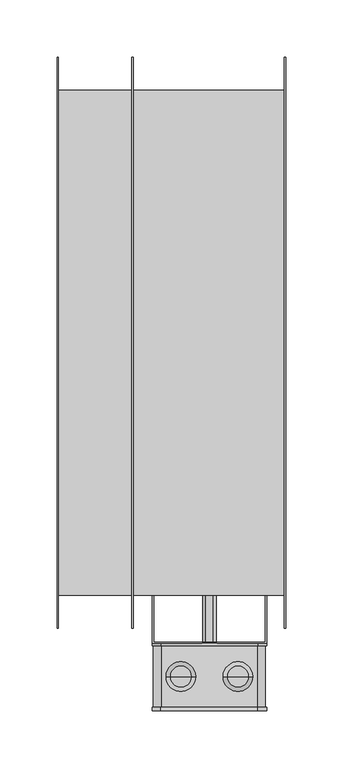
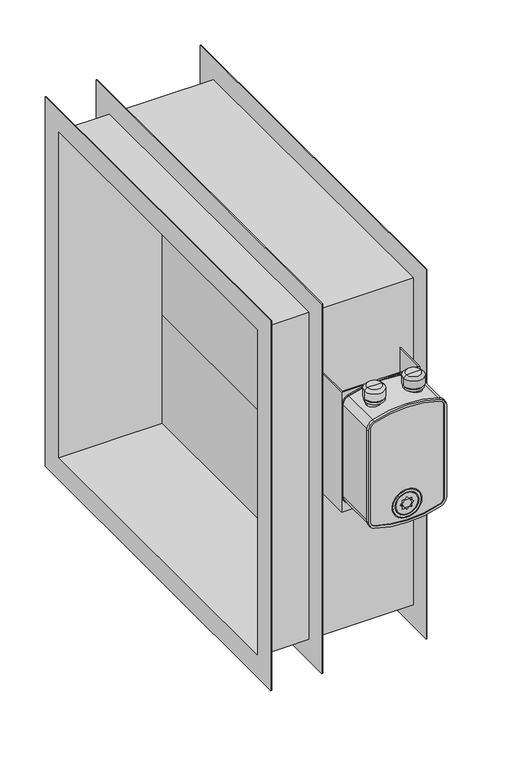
"""IFC4 building model written with IfcOpenShell, lengths in millimetres: damper geometry, СВ_КлапанПротивопожарныйЛифтовой_КДМ-2М-3-ЛС_НЗ_КанальныйПрямоугольный_СВОК : КДМ-2М_Привод FS."""

from ifc_helpers import new_model, si_unit, point, frame, frame_2d, origin, place, context, project, spatial, polyline, circle_curve, trimmed, segment, composite_curve, outline, extrude, faceted_brep, source, transform, mapped, element, save
from ifc_brep_helpers import plane_surface, cylinder_surface, revolved_surface, advanced_brep


def damper_2479240d(model_context):
    return source(origin(), model_context, "Body", "SolidModel", [
        extrude(outline(polyline([(33.9, -220.0), (32.7, -220.0), (32.7, 220.0), (33.9, 220.0), (33.9, -220.0)])), frame((0.0, 0.0, 73.3333333), z_axis=(0.0, 0.0, 1.0), x_axis=(1.0, 0.0, 0.0)), (0.0, 0.0, 1.0), 146.6666667),
        extrude(outline(polyline([(33.9, -220.0), (32.7, -220.0), (32.7, 220.0), (33.9, 220.0), (33.9, -220.0)])), frame((0.0, 0.0, -73.3333333), z_axis=(0.0, 0.0, 1.0), x_axis=(1.0, 0.0, 0.0)), (0.0, 0.0, 1.0), 146.6666667),
        extrude(outline(polyline([(33.9, -220.0), (32.7, -220.0), (32.7, 220.0), (33.9, 220.0), (33.9, -220.0)])), frame((0.0, 0.0, -220.0), z_axis=(0.0, 0.0, 1.0), x_axis=(1.0, 0.0, 0.0)), (0.0, 0.0, 1.0), 146.6666667),
        extrude(outline(polyline([(-15.5298911, -221.2), (-15.5298911, -262.0), (82.1, -262.0), (82.1, -221.2), (83.3, -221.2), (83.3, -263.2), (-16.7298911, -263.2), (-16.7298911, -221.2), (-15.5298911, -221.2)])), frame((0.0, 0.0, -30.0), z_axis=(0.0, 0.0, 1.0), x_axis=(1.0, 0.0, 0.0)), (0.0, 0.0, 1.0), 162.5),
        extrude(outline(composite_curve([segment(polyline([(116.1260091, -16.7298911), (-8.1260091, -16.7298911)]), True, "CONTINUOUS"), segment(trimmed(circle_curve(frame_2d((-8.1260091, -5.7)), 11.0298911), [point((-8.1260091, -16.7298911))], [point((-18.5819866, -9.2115572))], False, "CARTESIAN"), True, "CONTINUOUS"), segment(trimmed(circle_curve(frame_2d((108.0, 33.3)), 133.5298911), [point((-18.5819866, -9.2115572))], [point((-18.5819866, 75.8115572))], False, "CARTESIAN"), True, "CONTINUOUS"), segment(trimmed(circle_curve(frame_2d((-8.1260091, 72.3)), 11.0298911), [point((-18.5819866, 75.8115572))], [point((-8.1260091, 83.3298911))], False, "CARTESIAN"), True, "CONTINUOUS"), segment(polyline([(-8.1260091, 83.3298911), (116.1260091, 83.3298911)]), True, "CONTINUOUS"), segment(trimmed(circle_curve(frame_2d((116.1260091, 72.3)), 11.0298911), [point((116.1260091, 83.3298911))], [point((126.5819866, 75.8115572))], False, "CARTESIAN"), True, "CONTINUOUS"), segment(trimmed(circle_curve(frame_2d((0.0, 33.3)), 133.5298911), [point((126.5819866, 75.8115572))], [point((126.5819866, -9.2115572))], False, "CARTESIAN"), True, "CONTINUOUS"), segment(trimmed(circle_curve(frame_2d((116.1260091, -5.7)), 11.0298911), [point((126.5819866, -9.2115572))], [point((116.1260091, -16.7298911))], False, "CARTESIAN"), True, "CONTINUOUS")], self_intersect=False), holes=[composite_curve([segment(trimmed(circle_curve(frame_2d((108.0, 33.3)), 132.5), [point((-17.6056834, 75.4836735))], [point((-17.6056834, -8.8836735))], True, "CARTESIAN"), True, "CONTINUOUS"), segment(trimmed(circle_curve(frame_2d((-8.1260091, -5.7)), 10.0), [point((-17.6056834, -8.8836735))], [point((-8.1260091, -15.7))], True, "CARTESIAN"), True, "CONTINUOUS"), segment(polyline([(-8.1260091, -15.7), (116.1260091, -15.7)]), True, "CONTINUOUS"), segment(trimmed(circle_curve(frame_2d((116.1260091, -5.7)), 10.0), [point((116.1260091, -15.7))], [point((125.6056834, -8.8836735))], True, "CARTESIAN"), True, "CONTINUOUS"), segment(trimmed(circle_curve(frame_2d((0.0, 33.3)), 132.5), [point((125.6056834, -8.8836735))], [point((125.6056834, 75.4836735))], True, "CARTESIAN"), True, "CONTINUOUS"), segment(trimmed(circle_curve(frame_2d((116.1260091, 72.3)), 10.0), [point((125.6056834, 75.4836735))], [point((116.1260091, 82.3))], True, "CARTESIAN"), True, "CONTINUOUS"), segment(polyline([(116.1260091, 82.3), (-8.1260091, 82.3)]), True, "CONTINUOUS"), segment(trimmed(circle_curve(frame_2d((-8.1260091, 72.3)), 10.0), [point((-8.1260091, 82.3))], [point((-17.6056834, 75.4836735))], True, "CARTESIAN"), True, "CONTINUOUS")], self_intersect=False)]), frame((0.0, -265.2, 0.0), z_axis=(0.0, 1.0, 0.0), x_axis=(0.0, 0.0, 1.0)), (0.0, 0.0, 1.0), 2.0),
        advanced_brep(
        [(-8.8836735, -319.2, -17.6056834), (-15.7, -319.2, -8.1260091), (-15.7, -321.2, -8.1260091), (-8.8836735, -321.2, -17.6056834), (-9.2115572, -322.2, -18.5819866), (-16.7298911, -322.2, -8.1260091), (-16.7298911, -319.2, -8.1260091), (-9.2115572, -319.2, -18.5819866), (-8.2469388, -321.2, -15.7097485), (-13.7, -321.2, -8.1260091), (-13.7, -322.2, -8.1260091), (-8.2469388, -322.2, -15.7097485), (75.4836735, -319.2, -17.6056834), (75.4836735, -321.2, -17.6056834), (75.8115572, -322.2, -18.5819866), (75.8115572, -319.2, -18.5819866), (74.8469388, -321.2, -15.7097485), (74.8469388, -322.2, -15.7097485), (82.3, -319.2, -8.1260091), (82.3, -321.2, -8.1260091), (83.3298911, -322.2, -8.1260091), (83.3298911, -319.2, -8.1260091), (80.3, -321.2, -8.1260091), (80.3, -322.2, -8.1260091), (82.3, -321.2, 116.1260091), (82.3, -319.2, 116.1260091), (83.3298911, -319.2, 116.1260091), (83.3298911, -322.2, 116.1260091), (80.3, -322.2, 116.1260091), (80.3, -321.2, 116.1260091), (75.4836735, -319.2, 125.6056834), (75.4836735, -321.2, 125.6056834), (75.8115572, -322.2, 126.5819866), (75.8115572, -319.2, 126.5819866), (74.8469388, -321.2, 123.7097485), (74.8469388, -322.2, 123.7097485), (-8.8836735, -319.2, 125.6056834), (-8.8836735, -321.2, 125.6056834), (-9.2115572, -322.2, 126.5819866), (-9.2115572, -319.2, 126.5819866), (-8.2469388, -321.2, 123.7097485), (-8.2469388, -322.2, 123.7097485), (-15.7, -319.2, 116.1260091), (-15.7, -321.2, 116.1260091), (-16.7298911, -322.2, 116.1260091), (-16.7298911, -319.2, 116.1260091), (-13.7, -321.2, 116.1260091), (-13.7, -322.2, 116.1260091)],
        [
            (0, 1, circle_curve(frame((-5.7, -319.2, -8.1260091), z_axis=(0.0, 1.0, 0.0), x_axis=(-1.0, 0.0, 0.0)), 10.0)),
            (1, 2),
            (2, 3, circle_curve(frame((-5.7, -321.2, -8.1260091), z_axis=(0.0, -1.0, 0.0), x_axis=(-1.0, 0.0, 0.0)), 10.0)),
            (3, 0),
            (4, 5, circle_curve(frame((-5.7, -322.2, -8.1260091), z_axis=(0.0, 1.0, 0.0), x_axis=(-1.0, 0.0, 0.0)), 11.0298911)),
            (5, 6),
            (6, 7, circle_curve(frame((-5.7, -319.2, -8.1260091), z_axis=(0.0, -1.0, 0.0), x_axis=(-1.0, 0.0, 0.0)), 11.0298911)),
            (7, 4),
            (8, 9, circle_curve(frame((-5.7, -321.2, -8.1260091), z_axis=(0.0, 1.0, 0.0), x_axis=(-1.0, 0.0, 0.0)), 8.0)),
            (9, 10),
            (10, 11, circle_curve(frame((-5.7, -322.2, -8.1260091), z_axis=(0.0, -1.0, 0.0), x_axis=(-1.0, 0.0, 0.0)), 8.0)),
            (11, 8),
            (12, 0, circle_curve(frame((33.3, -319.2, 108.0), z_axis=(0.0, 1.0, 0.0), x_axis=(-0.31836734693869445, 0.0, -0.9479674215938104)), 132.5)),
            (3, 13, circle_curve(frame((33.3, -321.2, 108.0), z_axis=(0.0, -1.0, 0.0), x_axis=(-0.31836734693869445, 0.0, -0.9479674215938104)), 132.5)),
            (13, 12),
            (14, 4, circle_curve(frame((33.3, -322.2, 108.0), z_axis=(0.0, 1.0, 0.0), x_axis=(-0.31836734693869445, 0.0, -0.9479674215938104)), 133.5298911)),
            (7, 15, circle_curve(frame((33.3, -319.2, 108.0), z_axis=(0.0, -1.0, 0.0), x_axis=(-0.31836734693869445, 0.0, -0.9479674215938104)), 133.5298911)),
            (15, 14),
            (16, 8, circle_curve(frame((33.3, -321.2, 108.0), z_axis=(0.0, 1.0, 0.0), x_axis=(-0.31836734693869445, 0.0, -0.9479674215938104)), 130.5)),
            (11, 17, circle_curve(frame((33.3, -322.2, 108.0), z_axis=(0.0, -1.0, 0.0), x_axis=(-0.31836734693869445, 0.0, -0.9479674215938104)), 130.5)),
            (17, 16),
            (18, 12, circle_curve(frame((72.3, -319.2, -8.1260091), z_axis=(0.0, 1.0, 0.0), x_axis=(0.3183673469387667, 0.0, -0.947967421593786)), 10.0)),
            (13, 19, circle_curve(frame((72.3, -321.2, -8.1260091), z_axis=(0.0, -1.0, 0.0), x_axis=(0.3183673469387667, 0.0, -0.947967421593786)), 10.0)),
            (19, 18),
            (20, 14, circle_curve(frame((72.3, -322.2, -8.1260091), z_axis=(0.0, 1.0, 0.0), x_axis=(0.3183673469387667, 0.0, -0.947967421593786)), 11.0298911)),
            (15, 21, circle_curve(frame((72.3, -319.2, -8.1260091), z_axis=(0.0, -1.0, 0.0), x_axis=(0.3183673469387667, 0.0, -0.947967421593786)), 11.0298911)),
            (21, 20),
            (22, 16, circle_curve(frame((72.3, -321.2, -8.1260091), z_axis=(0.0, 1.0, 0.0), x_axis=(0.3183673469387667, 0.0, -0.947967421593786)), 8.0)),
            (17, 23, circle_curve(frame((72.3, -322.2, -8.1260091), z_axis=(0.0, -1.0, 0.0), x_axis=(0.3183673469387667, 0.0, -0.947967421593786)), 8.0)),
            (23, 22),
            (19, 24),
            (24, 25),
            (25, 18),
            (21, 26),
            (26, 27),
            (27, 20),
            (23, 28),
            (28, 29),
            (29, 22),
            (30, 25, circle_curve(frame((72.3, -319.2, 116.1260091), z_axis=(0.0, 1.0, 0.0), x_axis=(1.0, 0.0, 0.0)), 10.0)),
            (24, 31, circle_curve(frame((72.3, -321.2, 116.1260091), z_axis=(0.0, -1.0, 0.0), x_axis=(1.0, 0.0, 0.0)), 10.0)),
            (31, 30),
            (32, 27, circle_curve(frame((72.3, -322.2, 116.1260091), z_axis=(0.0, 1.0, 0.0), x_axis=(1.0, 0.0, 0.0)), 11.0298911)),
            (26, 33, circle_curve(frame((72.3, -319.2, 116.1260091), z_axis=(0.0, -1.0, 0.0), x_axis=(1.0, 0.0, 0.0)), 11.0298911)),
            (33, 32),
            (34, 29, circle_curve(frame((72.3, -321.2, 116.1260091), z_axis=(0.0, 1.0, 0.0), x_axis=(1.0, 0.0, 0.0)), 8.0)),
            (28, 35, circle_curve(frame((72.3, -322.2, 116.1260091), z_axis=(0.0, -1.0, 0.0), x_axis=(1.0, 0.0, 0.0)), 8.0)),
            (35, 34),
            (36, 30, circle_curve(frame((33.3, -319.2, 0.0), z_axis=(0.0, 1.0, 0.0), x_axis=(0.3183673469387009, 0.0, 0.9479674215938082)), 132.5)),
            (31, 37, circle_curve(frame((33.3, -321.2, 0.0), z_axis=(0.0, -1.0, 0.0), x_axis=(0.3183673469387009, 0.0, 0.9479674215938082)), 132.5)),
            (37, 36),
            (38, 32, circle_curve(frame((33.3, -322.2, 0.0), z_axis=(0.0, 1.0, 0.0), x_axis=(0.3183673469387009, 0.0, 0.9479674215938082)), 133.5298911)),
            (33, 39, circle_curve(frame((33.3, -319.2, 0.0), z_axis=(0.0, -1.0, 0.0), x_axis=(0.3183673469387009, 0.0, 0.9479674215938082)), 133.5298911)),
            (39, 38),
            (40, 34, circle_curve(frame((33.3, -321.2, 0.0), z_axis=(0.0, 1.0, 0.0), x_axis=(0.3183673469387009, 0.0, 0.9479674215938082)), 130.5)),
            (35, 41, circle_curve(frame((33.3, -322.2, 0.0), z_axis=(0.0, -1.0, 0.0), x_axis=(0.3183673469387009, 0.0, 0.9479674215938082)), 130.5)),
            (41, 40),
            (42, 36, circle_curve(frame((-5.7, -319.2, 116.1260091), z_axis=(0.0, 1.0, 0.0), x_axis=(-0.3183673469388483, 0.0, 0.9479674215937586)), 10.0)),
            (37, 43, circle_curve(frame((-5.7, -321.2, 116.1260091), z_axis=(0.0, -1.0, 0.0), x_axis=(-0.3183673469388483, 0.0, 0.9479674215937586)), 10.0)),
            (43, 42),
            (44, 38, circle_curve(frame((-5.7, -322.2, 116.1260091), z_axis=(0.0, 1.0, 0.0), x_axis=(-0.3183673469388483, 0.0, 0.9479674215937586)), 11.0298911)),
            (39, 45, circle_curve(frame((-5.7, -319.2, 116.1260091), z_axis=(0.0, -1.0, 0.0), x_axis=(-0.3183673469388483, 0.0, 0.9479674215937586)), 11.0298911)),
            (45, 44),
            (46, 40, circle_curve(frame((-5.7, -321.2, 116.1260091), z_axis=(0.0, 1.0, 0.0), x_axis=(-0.3183673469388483, 0.0, 0.9479674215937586)), 8.0)),
            (41, 47, circle_curve(frame((-5.7, -322.2, 116.1260091), z_axis=(0.0, -1.0, 0.0), x_axis=(-0.3183673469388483, 0.0, 0.9479674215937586)), 8.0)),
            (47, 46),
            (2, 43),
            (46, 9),
            (1, 42),
            (6, 45),
            (5, 44),
            (10, 47),
        ],
        [
            revolved_surface(polyline([(-15.7, -321.2, -8.1260091), (-15.7, -319.2, -8.1260091)]), (-5.7, -321.2, -8.1260091), (0.0, -1.0, 0.0)),
            cylinder_surface(frame((-5.7, -321.2, -8.1260091), z_axis=(0.0, -1.0, 0.0), x_axis=(-1.0, 0.0, 0.0)), 11.0298911),
            revolved_surface(polyline([(-13.7, -322.2, -8.1260091), (-13.7, -321.2, -8.1260091)]), (-5.7, -321.2, -8.1260091), (0.0, -1.0, 0.0)),
            revolved_surface(polyline([(-8.883673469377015, -321.2, -17.605683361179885), (-8.883673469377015, -319.2, -17.605683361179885)]), (33.3, -321.2, 108.0), (0.0, -1.0, 0.0)),
            cylinder_surface(frame((33.3, -321.2, 108.0), z_axis=(0.0, -1.0, 0.0), x_axis=(-0.31836734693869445, 0.0, -0.9479674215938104)), 133.5298911),
            revolved_surface(polyline([(-8.246938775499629, -322.2, -15.709748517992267), (-8.246938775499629, -321.2, -15.709748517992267)]), (33.3, -321.2, 108.0), (0.0, -1.0, 0.0)),
            revolved_surface(polyline([(75.48367346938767, -321.2, -17.60568331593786), (75.48367346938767, -319.2, -17.60568331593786)]), (72.3, -321.2, -8.1260091), (0.0, -1.0, 0.0)),
            cylinder_surface(frame((72.3, -321.2, -8.1260091), z_axis=(0.0, -1.0, 0.0), x_axis=(0.3183673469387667, 0.0, -0.947967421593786)), 11.0298911),
            revolved_surface(polyline([(74.84693877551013, -322.2, -15.709748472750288), (74.84693877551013, -321.2, -15.709748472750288)]), (72.3, -321.2, -8.1260091), (0.0, -1.0, 0.0)),
            plane_surface(frame((82.3, -321.2, -8.1260091), z_axis=(-1.0, 0.0, 0.0), x_axis=(0.0, 0.0, 1.0))),
            plane_surface(frame((83.3298911, -319.2, -8.1260091), z_axis=(1.0, 0.0, 0.0), x_axis=(0.0, 0.0, 1.0))),
            plane_surface(frame((80.3, -322.2, -8.1260091), z_axis=(-1.0, 0.0, 0.0), x_axis=(0.0, 0.0, 1.0))),
            revolved_surface(polyline([(82.3, -321.2, 116.1260091), (82.3, -319.2, 116.1260091)]), (72.3, -321.2, 116.1260091), (0.0, -1.0, 0.0)),
            cylinder_surface(frame((72.3, -321.2, 116.1260091), z_axis=(0.0, -1.0, 0.0), x_axis=(1.0, 0.0, 0.0)), 11.0298911),
            revolved_surface(polyline([(80.3, -322.2, 116.1260091), (80.3, -321.2, 116.1260091)]), (72.3, -321.2, 116.1260091), (0.0, -1.0, 0.0)),
            revolved_surface(polyline([(75.48367346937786, -321.2, 125.60568336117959), (75.48367346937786, -319.2, 125.60568336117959)]), (33.3, -321.2, 0.0), (0.0, -1.0, 0.0)),
            cylinder_surface(frame((33.3, -321.2, 0.0), z_axis=(0.0, -1.0, 0.0), x_axis=(0.3183673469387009, 0.0, 0.9479674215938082)), 133.5298911),
            revolved_surface(polyline([(74.84693877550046, -322.2, 123.70974851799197), (74.84693877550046, -321.2, 123.70974851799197)]), (33.3, -321.2, 0.0), (0.0, -1.0, 0.0)),
            revolved_surface(polyline([(-8.883673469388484, -321.2, 125.6056833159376), (-8.883673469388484, -319.2, 125.6056833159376)]), (-5.7, -321.2, 116.1260091), (0.0, -1.0, 0.0)),
            cylinder_surface(frame((-5.7, -321.2, 116.1260091), z_axis=(0.0, -1.0, 0.0), x_axis=(-0.3183673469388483, 0.0, 0.9479674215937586)), 11.0298911),
            revolved_surface(polyline([(-8.246938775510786, -322.2, 123.70974847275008), (-8.246938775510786, -321.2, 123.70974847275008)]), (-5.7, -321.2, 116.1260091), (0.0, -1.0, 0.0)),
            plane_surface(frame((-13.7, -321.2, 116.1260091), z_axis=(0.0, 1.0, 0.0), x_axis=(0.0, 0.0, -1.0))),
            plane_surface(frame((-15.7, -321.2, 116.1260091), z_axis=(1.0, 0.0, 0.0), x_axis=(0.0, 0.0, -1.0))),
            plane_surface(frame((-15.7, -319.2, 116.1260091), z_axis=(0.0, 1.0, 0.0), x_axis=(0.0, 0.0, -1.0))),
            plane_surface(frame((-16.7298911, -319.2, 116.1260091), z_axis=(-1.0, 0.0, 0.0), x_axis=(0.0, 0.0, -1.0))),
            plane_surface(frame((-16.7298911, -322.2, 116.1260091), z_axis=(0.0, -1.0, 0.0), x_axis=(0.0, 0.0, -1.0))),
            plane_surface(frame((-13.7, -322.2, 116.1260091), z_axis=(1.0, 0.0, 0.0), x_axis=(0.0, 0.0, -1.0))),
        ],
        [
            (0, [[1, 2, 3, 4]]),
            (1, [[5, 6, 7, 8]]),
            (2, [[9, 10, 11, 12]]),
            (3, [[13, -4, 14, 15]]),
            (4, [[16, -8, 17, 18]]),
            (5, [[19, -12, 20, 21]]),
            (6, [[22, -15, 23, 24]]),
            (7, [[25, -18, 26, 27]]),
            (8, [[28, -21, 29, 30]]),
            (9, [[-24, 31, 32, 33]]),
            (10, [[-27, 34, 35, 36]]),
            (11, [[-30, 37, 38, 39]]),
            (12, [[40, -32, 41, 42]]),
            (13, [[43, -35, 44, 45]]),
            (14, [[46, -38, 47, 48]]),
            (15, [[49, -42, 50, 51]]),
            (16, [[52, -45, 53, 54]]),
            (17, [[55, -48, 56, 57]]),
            (18, [[58, -51, 59, 60]]),
            (19, [[61, -54, 62, 63]]),
            (20, [[64, -57, 65, 66]]),
            (21, [[67, -59, -50, -41, -31, -23, -14, -3], [-55, -64, 68, -9, -19, -28, -39, -46]]),
            (22, [[-60, -67, -2, 69]]),
            (23, [[70, -62, -53, -44, -34, -26, -17, -7], [-49, -58, -69, -1, -13, -22, -33, -40]]),
            (24, [[-63, -70, -6, 71]]),
            (25, [[-52, -61, -71, -5, -16, -25, -36, -43], [72, -65, -56, -47, -37, -29, -20, -11]]),
            (26, [[-66, -72, -10, -68]]),
        ],
    ),
        advanced_brep(
        [(18.3, -292.2, 132.5), (-1.7, -292.2, 132.5), (-3.6771465, -292.2, 132.5), (20.2771465, -292.2, 132.5), (-3.6771465, -292.2, 135.4915282), (20.2771465, -292.2, 135.4915282), (0.3228535, -292.2, 135.4915282), (16.2771465, -292.2, 135.4915282), (0.3228535, -292.2, 137.4754985), (16.2771465, -292.2, 137.4754985), (-4.6771465, -292.2, 137.4754985), (21.2771465, -292.2, 137.4754985), (-4.6771465, -292.2, 147.4754985), (21.2771465, -292.2, 147.4754985), (-1.1416126, -292.2, 151.0110324), (17.7416126, -292.2, 151.0110324), (8.3, -292.2, 151.0110324), (8.3, -292.2, 120.900028), (-1.7, -292.2, 120.900028), (18.3, -292.2, 120.900028)],
        [
            (0, 1, circle_curve(frame((8.3, -292.2, 132.5), z_axis=(0.0, 0.0, 1.0), x_axis=(-1.0, 0.0, 0.0)), 10.0)),
            (1, 2),
            (2, 3, circle_curve(frame((8.3, -292.2, 132.5), z_axis=(0.0, 0.0, -1.0), x_axis=(-1.0, 0.0, 0.0)), 11.9771465)),
            (3, 0),
            (1, 0, circle_curve(frame((8.3, -292.2, 132.5), z_axis=(0.0, 0.0, 1.0), x_axis=(-1.0, 0.0, 0.0)), 10.0)),
            (3, 2, circle_curve(frame((8.3, -292.2, 132.5), z_axis=(0.0, 0.0, -1.0), x_axis=(-1.0, 0.0, 0.0)), 11.9771465)),
            (2, 4),
            (4, 5, circle_curve(frame((8.3, -292.2, 135.4915282), z_axis=(0.0, 0.0, -1.0), x_axis=(-1.0, 0.0, 0.0)), 11.9771465)),
            (5, 3),
            (5, 4, circle_curve(frame((8.3, -292.2, 135.4915282), z_axis=(0.0, 0.0, -1.0), x_axis=(-1.0, 0.0, 0.0)), 11.9771465)),
            (4, 6),
            (6, 7, circle_curve(frame((8.3, -292.2, 135.4915282), z_axis=(0.0, 0.0, -1.0), x_axis=(-1.0, 0.0, 0.0)), 7.9771465)),
            (7, 5),
            (7, 6, circle_curve(frame((8.3, -292.2, 135.4915282), z_axis=(0.0, 0.0, -1.0), x_axis=(-1.0, 0.0, 0.0)), 7.9771465)),
            (6, 8),
            (8, 9, circle_curve(frame((8.3, -292.2, 137.4754985), z_axis=(0.0, 0.0, -1.0), x_axis=(-1.0, 0.0, 0.0)), 7.9771465)),
            (9, 7),
            (9, 8, circle_curve(frame((8.3, -292.2, 137.4754985), z_axis=(0.0, 0.0, -1.0), x_axis=(-1.0, 0.0, 0.0)), 7.9771465)),
            (8, 10),
            (10, 11, circle_curve(frame((8.3, -292.2, 137.4754985), z_axis=(0.0, 0.0, -1.0), x_axis=(-1.0, 0.0, 0.0)), 12.9771465)),
            (11, 9),
            (11, 10, circle_curve(frame((8.3, -292.2, 137.4754985), z_axis=(0.0, 0.0, -1.0), x_axis=(-1.0, 0.0, 0.0)), 12.9771465)),
            (10, 12),
            (12, 13, circle_curve(frame((8.3, -292.2, 147.4754985), z_axis=(0.0, 0.0, -1.0), x_axis=(-1.0, 0.0, 0.0)), 12.9771465)),
            (13, 11),
            (13, 12, circle_curve(frame((8.3, -292.2, 147.4754985), z_axis=(0.0, 0.0, -1.0), x_axis=(-1.0, 0.0, 0.0)), 12.9771465)),
            (12, 14),
            (14, 15, circle_curve(frame((8.3, -292.2, 151.0110324), z_axis=(0.0, 0.0, -1.0), x_axis=(-1.0, 0.0, 0.0)), 9.4416126)),
            (15, 13),
            (15, 14, circle_curve(frame((8.3, -292.2, 151.0110324), z_axis=(0.0, 0.0, -1.0), x_axis=(-1.0, 0.0, 0.0)), 9.4416126)),
            (14, 16),
            (16, 15),
            (17, 18),
            (18, 19, circle_curve(frame((8.3, -292.2, 120.900028), z_axis=(0.0, 0.0, -1.0), x_axis=(-1.0, 0.0, 0.0)), 10.0)),
            (19, 17),
            (19, 18, circle_curve(frame((8.3, -292.2, 120.900028), z_axis=(0.0, 0.0, -1.0), x_axis=(-1.0, 0.0, 0.0)), 10.0)),
            (18, 1),
            (0, 19),
        ],
        [
            plane_surface(frame((8.3, -292.2, 132.5), z_axis=(0.0, 0.0, -1.0), x_axis=(-1.0, 0.0, 0.0))),
            cylinder_surface(frame((8.3, -292.2, 461.314844), z_axis=(0.0, 0.0, -1.0), x_axis=(-1.0, 0.0, 0.0)), 11.9771465),
            plane_surface(frame((8.3, -292.2, 135.4915282), z_axis=(0.0, 0.0, 1.0), x_axis=(-1.0, 0.0, 0.0))),
            cylinder_surface(frame((8.3, -292.2, 461.314844), z_axis=(0.0, 0.0, -1.0), x_axis=(-1.0, 0.0, 0.0)), 7.9771465),
            plane_surface(frame((8.3, -292.2, 137.4754985), z_axis=(0.0, 0.0, -1.0), x_axis=(-1.0, 0.0, 0.0))),
            cylinder_surface(frame((8.3, -292.2, 461.314844), z_axis=(0.0, 0.0, -1.0), x_axis=(-1.0, 0.0, 0.0)), 12.9771465),
            revolved_surface(polyline([(-1.1416126, -292.2, 151.0110324), (-4.6771465, -292.2, 147.4754985)]), (8.3, -292.2, 461.314844), (0.0, 0.0, -1.0)),
            plane_surface(frame((8.3, -292.2, 151.0110324), z_axis=(0.0, 0.0, 1.0), x_axis=(-1.0, 0.0, 0.0))),
            plane_surface(frame((8.3, -292.2, 120.900028), z_axis=(0.0, 0.0, -1.0), x_axis=(-1.0, 0.0, 0.0))),
            cylinder_surface(frame((8.3, -292.2, 461.314844), z_axis=(0.0, 0.0, -1.0), x_axis=(-1.0, 0.0, 0.0)), 10.0),
        ],
        [
            (0, [[1, 2, 3, 4]]),
            (0, [[5, -4, 6, -2]]),
            (1, [[-3, 7, 8, 9]]),
            (1, [[-6, -9, 10, -7]]),
            (2, [[-8, 11, 12, 13]]),
            (2, [[-10, -13, 14, -11]]),
            (3, [[-12, 15, 16, 17]]),
            (3, [[-14, -17, 18, -15]]),
            (4, [[-16, 19, 20, 21]]),
            (4, [[-18, -21, 22, -19]]),
            (5, [[-20, 23, 24, 25]]),
            (5, [[-22, -25, 26, -23]]),
            (6, [[-24, 27, 28, 29]]),
            (6, [[-26, -29, 30, -27]]),
            (7, [[-28, 31, 32]]),
            (7, [[-30, -32, -31]]),
            (8, [[33, 34, 35]]),
            (8, [[-35, 36, -33]]),
            (9, [[-34, 37, -1, 38]]),
            (9, [[-36, -38, -5, -37]]),
        ],
    ),
        advanced_brep(
        [(46.3228535, -292.2, 132.5), (70.2771465, -292.2, 132.5), (68.3, -292.2, 132.5), (48.3, -292.2, 132.5), (46.3228535, -292.2, 135.4915282), (70.2771465, -292.2, 135.4915282), (50.3228535, -292.2, 135.4915282), (66.2771465, -292.2, 135.4915282), (50.3228535, -292.2, 137.4754985), (66.2771465, -292.2, 137.4754985), (45.3228535, -292.2, 137.4754985), (71.2771465, -292.2, 137.4754985), (45.3228535, -292.2, 147.4754985), (71.2771465, -292.2, 147.4754985), (48.8583874, -292.2, 151.0110324), (67.7416126, -292.2, 151.0110324), (58.3, -292.2, 151.0110324), (48.3, -292.2, 120.900028), (68.3, -292.2, 120.900028), (58.3, -292.2, 120.900028)],
        [
            (0, 1, circle_curve(frame((58.3, -292.2, 132.5), z_axis=(0.0, 0.0, -1.0), x_axis=(1.0, 0.0, 0.0)), 11.9771465)),
            (1, 2),
            (2, 3, circle_curve(frame((58.3, -292.2, 132.5), z_axis=(0.0, 0.0, 1.0), x_axis=(1.0, 0.0, 0.0)), 10.0)),
            (3, 0),
            (1, 0, circle_curve(frame((58.3, -292.2, 132.5), z_axis=(0.0, 0.0, -1.0), x_axis=(1.0, 0.0, 0.0)), 11.9771465)),
            (3, 2, circle_curve(frame((58.3, -292.2, 132.5), z_axis=(0.0, 0.0, 1.0), x_axis=(1.0, 0.0, 0.0)), 10.0)),
            (4, 5, circle_curve(frame((58.3, -292.2, 135.4915282), z_axis=(0.0, 0.0, -1.0), x_axis=(1.0, 0.0, 0.0)), 11.9771465)),
            (5, 1),
            (0, 4),
            (5, 4, circle_curve(frame((58.3, -292.2, 135.4915282), z_axis=(0.0, 0.0, -1.0), x_axis=(1.0, 0.0, 0.0)), 11.9771465)),
            (6, 7, circle_curve(frame((58.3, -292.2, 135.4915282), z_axis=(0.0, 0.0, -1.0), x_axis=(1.0, 0.0, 0.0)), 7.9771465)),
            (7, 5),
            (4, 6),
            (7, 6, circle_curve(frame((58.3, -292.2, 135.4915282), z_axis=(0.0, 0.0, -1.0), x_axis=(1.0, 0.0, 0.0)), 7.9771465)),
            (8, 9, circle_curve(frame((58.3, -292.2, 137.4754985), z_axis=(0.0, 0.0, -1.0), x_axis=(1.0, 0.0, 0.0)), 7.9771465)),
            (9, 7),
            (6, 8),
            (9, 8, circle_curve(frame((58.3, -292.2, 137.4754985), z_axis=(0.0, 0.0, -1.0), x_axis=(1.0, 0.0, 0.0)), 7.9771465)),
            (10, 11, circle_curve(frame((58.3, -292.2, 137.4754985), z_axis=(0.0, 0.0, -1.0), x_axis=(1.0, 0.0, 0.0)), 12.9771465)),
            (11, 9),
            (8, 10),
            (11, 10, circle_curve(frame((58.3, -292.2, 137.4754985), z_axis=(0.0, 0.0, -1.0), x_axis=(1.0, 0.0, 0.0)), 12.9771465)),
            (12, 13, circle_curve(frame((58.3, -292.2, 147.4754985), z_axis=(0.0, 0.0, -1.0), x_axis=(1.0, 0.0, 0.0)), 12.9771465)),
            (13, 11),
            (10, 12),
            (13, 12, circle_curve(frame((58.3, -292.2, 147.4754985), z_axis=(0.0, 0.0, -1.0), x_axis=(1.0, 0.0, 0.0)), 12.9771465)),
            (14, 15, circle_curve(frame((58.3, -292.2, 151.0110324), z_axis=(0.0, 0.0, -1.0), x_axis=(1.0, 0.0, 0.0)), 9.4416126)),
            (15, 13),
            (12, 14),
            (15, 14, circle_curve(frame((58.3, -292.2, 151.0110324), z_axis=(0.0, 0.0, -1.0), x_axis=(1.0, 0.0, 0.0)), 9.4416126)),
            (16, 15),
            (14, 16),
            (17, 18, circle_curve(frame((58.3, -292.2, 120.900028), z_axis=(0.0, 0.0, -1.0), x_axis=(1.0, 0.0, 0.0)), 10.0)),
            (18, 19),
            (19, 17),
            (18, 17, circle_curve(frame((58.3, -292.2, 120.900028), z_axis=(0.0, 0.0, -1.0), x_axis=(1.0, 0.0, 0.0)), 10.0)),
            (2, 18),
            (17, 3),
        ],
        [
            plane_surface(frame((58.3, -292.2, 132.5), z_axis=(0.0, 0.0, -1.0), x_axis=(1.0, 0.0, 0.0))),
            cylinder_surface(frame((58.3, -292.2, 461.314844), z_axis=(0.0, 0.0, 1.0), x_axis=(1.0, 0.0, 0.0)), 11.9771465),
            plane_surface(frame((58.3, -292.2, 135.4915282), z_axis=(0.0, 0.0, 1.0), x_axis=(1.0, 0.0, 0.0))),
            cylinder_surface(frame((58.3, -292.2, 461.314844), z_axis=(0.0, 0.0, 1.0), x_axis=(1.0, 0.0, 0.0)), 7.9771465),
            plane_surface(frame((58.3, -292.2, 137.4754985), z_axis=(0.0, 0.0, -1.0), x_axis=(1.0, 0.0, 0.0))),
            cylinder_surface(frame((58.3, -292.2, 461.314844), z_axis=(0.0, 0.0, 1.0), x_axis=(1.0, 0.0, 0.0)), 12.9771465),
            revolved_surface(polyline([(71.2771465, -292.2, 147.4754985), (67.7416126, -292.2, 151.0110324)]), (58.3, -292.2, 461.314844), (0.0, 0.0, 1.0)),
            plane_surface(frame((58.3, -292.2, 151.0110324), z_axis=(0.0, 0.0, 1.0), x_axis=(1.0, 0.0, 0.0))),
            plane_surface(frame((58.3, -292.2, 120.900028), z_axis=(0.0, 0.0, -1.0), x_axis=(1.0, 0.0, 0.0))),
            cylinder_surface(frame((58.3, -292.2, 461.314844), z_axis=(0.0, 0.0, 1.0), x_axis=(1.0, 0.0, 0.0)), 10.0),
        ],
        [
            (0, [[1, 2, 3, 4]]),
            (0, [[5, -4, 6, -2]]),
            (1, [[7, 8, -1, 9]]),
            (1, [[10, -9, -5, -8]]),
            (2, [[11, 12, -7, 13]]),
            (2, [[14, -13, -10, -12]]),
            (3, [[15, 16, -11, 17]]),
            (3, [[18, -17, -14, -16]]),
            (4, [[19, 20, -15, 21]]),
            (4, [[22, -21, -18, -20]]),
            (5, [[23, 24, -19, 25]]),
            (5, [[26, -25, -22, -24]]),
            (6, [[27, 28, -23, 29]]),
            (6, [[30, -29, -26, -28]]),
            (7, [[31, -27, 32]]),
            (7, [[-32, -30, -31]]),
            (8, [[33, 34, 35]]),
            (8, [[36, -35, -34]]),
            (9, [[-3, 37, -33, 38]]),
            (9, [[-6, -38, -36, -37]]),
        ],
    ),
        extrude(outline(polyline([(5.1832695, 36.2925621), (5.1832695, 30.3074379), (0.0, 27.3148759), (-5.1832695, 30.3074379), (-5.1832695, 36.2925621), (0.0, 39.2851241), (5.1832695, 36.2925621)])), frame((0.0, -321.2, 0.0), z_axis=(0.0, 1.0, 0.0), x_axis=(0.0, 0.0, 1.0)), (0.0, 0.0, 1.0), 100.0),
        advanced_brep(
        [(-8.8836735, -321.2, 125.6056834), (-15.7, -321.2, 116.1260091), (-15.7, -321.2, -8.1260091), (-8.8836735, -321.2, -17.6056834), (75.4836735, -321.2, -17.6056834), (82.3, -321.2, -8.1260091), (82.3, -321.2, 116.1260091), (75.4836735, -321.2, 125.6056834), (33.3, -321.2, 19.0), (33.3, -321.2, -19.0), (33.3, -321.2, 18.0), (33.3, -321.2, -18.0), (33.3, -321.2, 15.0), (33.3, -321.2, -15.0), (33.3, -321.2, 14.0), (33.3, -321.2, -14.0), (27.3045537, -321.2, -5.9954463), (27.3045537, -321.2, -2.4898351), (24.8147186, -321.2, 0.0), (27.3045537, -321.2, 2.4898351), (27.3045537, -321.2, 5.9954463), (30.8101649, -321.2, 5.9954463), (33.3, -321.2, 8.4852814), (35.7898351, -321.2, 5.9954463), (39.2954463, -321.2, 5.9954463), (39.2954463, -321.2, 2.4898351), (41.7852814, -321.2, 0.0), (39.2954463, -321.2, -2.4898351), (39.2954463, -321.2, -5.9954463), (35.7898351, -321.2, -5.9954463), (33.3, -321.2, -8.4852814), (30.8101649, -321.2, -5.9954463), (-8.8836735, -263.2, 125.6056834), (75.4836735, -263.2, 125.6056834), (82.3, -263.2, 116.1260091), (82.3, -263.2, -8.1260091), (75.4836735, -263.2, -17.6056834), (-8.8836735, -263.2, -17.6056834), (-15.7, -263.2, -8.1260091), (-15.7, -263.2, 116.1260091), (33.3, -316.2, -19.0), (33.3, -316.2, 19.0), (33.3, -316.2, -18.0), (33.3, -316.2, 18.0), (33.3, -316.2, -15.0), (33.3, -316.2, 15.0), (33.3, -316.2, -14.0), (33.3, -316.2, 14.0), (27.3045537, -316.2, -2.4898351), (27.3045537, -316.2, -5.9954463), (30.8101649, -316.2, -5.9954463), (33.3, -316.2, -8.4852814), (35.7898351, -316.2, -5.9954463), (39.2954463, -316.2, -5.9954463), (39.2954463, -316.2, -2.4898351), (41.7852814, -316.2, 0.0), (39.2954463, -316.2, 2.4898351), (39.2954463, -316.2, 5.9954463), (35.7898351, -316.2, 5.9954463), (33.3, -316.2, 8.4852814), (30.8101649, -316.2, 5.9954463), (27.3045537, -316.2, 5.9954463), (27.3045537, -316.2, 2.4898351), (24.8147186, -316.2, 0.0)],
        [
            (0, 1, circle_curve(frame((-5.7, -321.2, 116.1260091), z_axis=(0.0, -1.0, 0.0), x_axis=(0.0, 0.0, 1.0)), 10.0)),
            (1, 2),
            (2, 3, circle_curve(frame((-5.7, -321.2, -8.1260091), z_axis=(0.0, -1.0, 0.0), x_axis=(0.0, 0.0, 1.0)), 10.0)),
            (3, 4, circle_curve(frame((33.3, -321.2, 108.0), z_axis=(0.0, -1.0, 0.0), x_axis=(0.0, 0.0, 1.0)), 132.5)),
            (4, 5, circle_curve(frame((72.3, -321.2, -8.1260091), z_axis=(0.0, -1.0, 0.0), x_axis=(0.0, 0.0, 1.0)), 10.0)),
            (5, 6),
            (6, 7, circle_curve(frame((72.3, -321.2, 116.1260091), z_axis=(0.0, -1.0, 0.0), x_axis=(0.0, 0.0, 1.0)), 10.0)),
            (7, 0, circle_curve(frame((33.3, -321.2, 0.0), z_axis=(0.0, -1.0, 0.0), x_axis=(0.0, 0.0, 1.0)), 132.5)),
            (8, 9, circle_curve(frame((33.3, -321.2, 0.0), z_axis=(0.0, 1.0, 0.0), x_axis=(0.0, 0.0, 1.0)), 19.0)),
            (9, 8, circle_curve(frame((33.3, -321.2, 0.0), z_axis=(0.0, 1.0, 0.0), x_axis=(0.0, 0.0, 1.0)), 19.0)),
            (10, 11, circle_curve(frame((33.3, -321.2, 0.0), z_axis=(0.0, -1.0, 0.0), x_axis=(0.0, 0.0, 1.0)), 18.0)),
            (11, 10, circle_curve(frame((33.3, -321.2, 0.0), z_axis=(0.0, -1.0, 0.0), x_axis=(0.0, 0.0, 1.0)), 18.0)),
            (12, 13, circle_curve(frame((33.3, -321.2, 0.0), z_axis=(0.0, 1.0, 0.0), x_axis=(0.0, 0.0, 1.0)), 15.0)),
            (13, 12, circle_curve(frame((33.3, -321.2, 0.0), z_axis=(0.0, 1.0, 0.0), x_axis=(0.0, 0.0, 1.0)), 15.0)),
            (14, 15, circle_curve(frame((33.3, -321.2, 0.0), z_axis=(0.0, -1.0, 0.0), x_axis=(0.0, 0.0, 1.0)), 14.0)),
            (15, 14, circle_curve(frame((33.3, -321.2, 0.0), z_axis=(0.0, -1.0, 0.0), x_axis=(0.0, 0.0, 1.0)), 14.0)),
            (16, 17),
            (17, 18),
            (18, 19),
            (19, 20),
            (20, 21),
            (21, 22),
            (22, 23),
            (23, 24),
            (24, 25),
            (25, 26),
            (26, 27),
            (27, 28),
            (28, 29),
            (29, 30),
            (30, 31),
            (31, 16),
            (32, 33, circle_curve(frame((33.3, -263.2, 0.0), z_axis=(0.0, 1.0, 0.0), x_axis=(0.0, 0.0, 1.0)), 132.5)),
            (33, 34, circle_curve(frame((72.3, -263.2, 116.1260091), z_axis=(0.0, 1.0, 0.0), x_axis=(0.0, 0.0, 1.0)), 10.0)),
            (34, 35),
            (35, 36, circle_curve(frame((72.3, -263.2, -8.1260091), z_axis=(0.0, 1.0, 0.0), x_axis=(0.0, 0.0, 1.0)), 10.0)),
            (36, 37, circle_curve(frame((33.3, -263.2, 108.0), z_axis=(0.0, 1.0, 0.0), x_axis=(0.0, 0.0, 1.0)), 132.5)),
            (37, 38, circle_curve(frame((-5.7, -263.2, -8.1260091), z_axis=(0.0, 1.0, 0.0), x_axis=(0.0, 0.0, 1.0)), 10.0)),
            (38, 39),
            (39, 32, circle_curve(frame((-5.7, -263.2, 116.1260091), z_axis=(0.0, 1.0, 0.0), x_axis=(0.0, 0.0, 1.0)), 10.0)),
            (0, 32),
            (39, 1),
            (38, 2),
            (37, 3),
            (36, 4),
            (35, 5),
            (34, 6),
            (33, 7),
            (40, 41, circle_curve(frame((33.3, -316.2, 0.0), z_axis=(0.0, -1.0, 0.0), x_axis=(0.0, 0.0, 1.0)), 19.0)),
            (41, 40, circle_curve(frame((33.3, -316.2, 0.0), z_axis=(0.0, -1.0, 0.0), x_axis=(0.0, 0.0, 1.0)), 19.0)),
            (42, 43, circle_curve(frame((33.3, -316.2, 0.0), z_axis=(0.0, 1.0, 0.0), x_axis=(0.0, 0.0, 1.0)), 18.0)),
            (43, 42, circle_curve(frame((33.3, -316.2, 0.0), z_axis=(0.0, 1.0, 0.0), x_axis=(0.0, 0.0, 1.0)), 18.0)),
            (44, 45, circle_curve(frame((33.3, -316.2, 0.0), z_axis=(0.0, -1.0, 0.0), x_axis=(0.0, 0.0, 1.0)), 15.0)),
            (45, 44, circle_curve(frame((33.3, -316.2, 0.0), z_axis=(0.0, -1.0, 0.0), x_axis=(0.0, 0.0, 1.0)), 15.0)),
            (46, 47, circle_curve(frame((33.3, -316.2, 0.0), z_axis=(0.0, 1.0, 0.0), x_axis=(0.0, 0.0, 1.0)), 14.0)),
            (47, 46, circle_curve(frame((33.3, -316.2, 0.0), z_axis=(0.0, 1.0, 0.0), x_axis=(0.0, 0.0, 1.0)), 14.0)),
            (48, 49),
            (49, 50),
            (50, 51),
            (51, 52),
            (52, 53),
            (53, 54),
            (54, 55),
            (55, 56),
            (56, 57),
            (57, 58),
            (58, 59),
            (59, 60),
            (60, 61),
            (61, 62),
            (62, 63),
            (63, 48),
            (40, 9),
            (8, 41),
            (42, 11),
            (10, 43),
            (44, 13),
            (12, 45),
            (46, 15),
            (14, 47),
            (48, 17),
            (16, 49),
            (31, 50),
            (30, 51),
            (29, 52),
            (28, 53),
            (27, 54),
            (26, 55),
            (25, 56),
            (24, 57),
            (23, 58),
            (22, 59),
            (21, 60),
            (20, 61),
            (19, 62),
            (18, 63),
        ],
        [
            plane_surface(frame((-5.7, -321.2, 126.1260091), z_axis=(0.0, -1.0, 0.0), x_axis=(-1.0, 0.0, 0.0))),
            plane_surface(frame((-5.7, -263.2, 126.1260091), z_axis=(0.0, 1.0, 0.0), x_axis=(1.0, 0.0, 0.0))),
            cylinder_surface(frame((-5.7, -263.2, 116.1260091), z_axis=(0.0, -1.0, 0.0), x_axis=(0.0, 0.0, 1.0)), 10.0),
            plane_surface(frame((-15.7, -321.2, 116.1260091), z_axis=(-1.0, 0.0, 0.0), x_axis=(0.0, 1.0, 0.0))),
            cylinder_surface(frame((-5.7, -263.2, -8.1260091), z_axis=(0.0, -1.0, 0.0), x_axis=(0.0, 0.0, 1.0)), 10.0),
            cylinder_surface(frame((33.3, -263.2, 108.0), z_axis=(0.0, -1.0, 0.0), x_axis=(0.0, 0.0, 1.0)), 132.5),
            cylinder_surface(frame((72.3, -263.2, -8.1260091), z_axis=(0.0, -1.0, 0.0), x_axis=(0.0, 0.0, 1.0)), 10.0),
            plane_surface(frame((82.3, -321.2, -8.1260091), z_axis=(1.0, 0.0, 0.0), x_axis=(0.0, 1.0, 0.0))),
            cylinder_surface(frame((72.3, -263.2, 116.1260091), z_axis=(0.0, -1.0, 0.0), x_axis=(0.0, 0.0, 1.0)), 10.0),
            cylinder_surface(frame((33.3, -263.2, 0.0), z_axis=(0.0, -1.0, 0.0), x_axis=(0.0, 0.0, 1.0)), 132.5),
            plane_surface(frame((33.3, -316.2, 19.0), z_axis=(0.0, -1.0, 0.0), x_axis=(1.0, 0.0, 0.0))),
            revolved_surface(polyline([(33.3, -321.2, 19.0), (33.3, -316.2, 19.0)]), (33.3, -316.2, 0.0), (0.0, -1.0, 0.0)),
            cylinder_surface(frame((33.3, -221.2, 0.0), z_axis=(0.0, 1.0, 0.0), x_axis=(0.0, 0.0, 1.0)), 18.0),
            revolved_surface(polyline([(33.3, -321.2, 15.0), (33.3, -316.2, 15.0)]), (33.3, -221.2, 0.0), (0.0, -1.0, 0.0)),
            cylinder_surface(frame((33.3, -221.2, 0.0), z_axis=(0.0, 1.0, 0.0), x_axis=(0.0, 0.0, 1.0)), 14.0),
            plane_surface(frame((27.3045537, -321.2, -2.4898351), z_axis=(1.0, 0.0, 0.0), x_axis=(0.0, 1.0, 0.0))),
            plane_surface(frame((27.3045537, -321.2, -5.9954463), z_axis=(0.0, 0.0, 1.0), x_axis=(0.0, 1.0, 0.0))),
            plane_surface(frame((30.8101649, -321.2, -5.9954463), z_axis=(0.7071067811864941, 0.0, 0.7071067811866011), x_axis=(0.0, 1.0, 0.0))),
            plane_surface(frame((33.3, -321.2, -8.4852814), z_axis=(-0.7071067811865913, 0.0, 0.7071067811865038), x_axis=(0.0, 1.0, 0.0))),
            plane_surface(frame((35.7898351, -321.2, -5.9954463), z_axis=(0.0, 0.0, 1.0), x_axis=(0.0, 1.0, 0.0))),
            plane_surface(frame((39.2954463, -321.2, -5.9954463), z_axis=(-1.0, 0.0, 0.0), x_axis=(0.0, 1.0, 0.0))),
            plane_surface(frame((39.2954463, -321.2, -2.4898351), z_axis=(-0.7071067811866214, 0.0, 0.7071067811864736), x_axis=(0.0, 1.0, 0.0))),
            plane_surface(frame((41.7852814, -321.2, 0.0), z_axis=(-0.7071067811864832, 0.0, -0.7071067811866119), x_axis=(0.0, 1.0, 0.0))),
            plane_surface(frame((39.2954463, -321.2, 2.4898351), z_axis=(-1.0, 0.0, 0.0), x_axis=(0.0, 1.0, 0.0))),
            plane_surface(frame((39.2954463, -321.2, 5.9954463), z_axis=(0.0, 0.0, -1.0), x_axis=(0.0, 1.0, 0.0))),
            plane_surface(frame((35.7898351, -321.2, 5.9954463), z_axis=(-0.7071067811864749, 0.0, -0.7071067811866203), x_axis=(0.0, 1.0, 0.0))),
            plane_surface(frame((33.3, -321.2, 8.4852814), z_axis=(0.7071067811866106, 0.0, -0.7071067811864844), x_axis=(0.0, 1.0, 0.0))),
            plane_surface(frame((30.8101649, -321.2, 5.9954463), z_axis=(0.0, 0.0, -1.0), x_axis=(0.0, 1.0, 0.0))),
            plane_surface(frame((27.3045537, -321.2, 5.9954463), z_axis=(1.0, 0.0, 0.0), x_axis=(0.0, 1.0, 0.0))),
            plane_surface(frame((27.3045537, -321.2, 2.4898351), z_axis=(0.7071067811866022, 0.0, -0.7071067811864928), x_axis=(0.0, 1.0, 0.0))),
            plane_surface(frame((24.8147186, -321.2, 0.0), z_axis=(0.7071067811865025, 0.0, 0.7071067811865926), x_axis=(0.0, 1.0, 0.0))),
        ],
        [
            (0, [[1, 2, 3, 4, 5, 6, 7, 8], [9, 10]]),
            (0, [[11, 12], [13, 14]]),
            (0, [[15, 16], [17, 18, 19, 20, 21, 22, 23, 24, 25, 26, 27, 28, 29, 30, 31, 32]]),
            (1, [[33, 34, 35, 36, 37, 38, 39, 40]]),
            (2, [[-1, 41, -40, 42]]),
            (3, [[-2, -42, -39, 43]]),
            (4, [[-3, -43, -38, 44]]),
            (5, [[-4, -44, -37, 45]]),
            (6, [[-5, -45, -36, 46]]),
            (7, [[-6, -46, -35, 47]]),
            (8, [[-7, -47, -34, 48]]),
            (9, [[-8, -48, -33, -41]]),
            (10, [[49, 50], [51, 52]]),
            (10, [[53, 54], [55, 56]]),
            (10, [[57, 58, 59, 60, 61, 62, 63, 64, 65, 66, 67, 68, 69, 70, 71, 72]]),
            (11, [[-49, 73, -9, 74]]),
            (11, [[-50, -74, -10, -73]]),
            (12, [[-51, 75, -11, 76]]),
            (12, [[-52, -76, -12, -75]]),
            (13, [[-53, 77, -13, 78]]),
            (13, [[-54, -78, -14, -77]]),
            (14, [[-55, 79, -15, 80]]),
            (14, [[-56, -80, -16, -79]]),
            (15, [[-57, 81, -17, 82]]),
            (16, [[-58, -82, -32, 83]]),
            (17, [[-59, -83, -31, 84]]),
            (18, [[-60, -84, -30, 85]]),
            (19, [[-61, -85, -29, 86]]),
            (20, [[-62, -86, -28, 87]]),
            (21, [[-63, -87, -27, 88]]),
            (22, [[-64, -88, -26, 89]]),
            (23, [[-65, -89, -25, 90]]),
            (24, [[-66, -90, -24, 91]]),
            (25, [[-67, -91, -23, 92]]),
            (26, [[-68, -92, -22, 93]]),
            (27, [[-69, -93, -21, 94]]),
            (28, [[-70, -94, -20, 95]]),
            (29, [[-71, -95, -19, 96]]),
            (30, [[-72, -96, -18, -81]]),
        ],
    ),
        faceted_brep([(-100.0, -250.0, 250.0), (-100.0, 250.0, 250.0), (-100.0, 250.0, -250.0), (-100.0, -250.0, -250.0), (-100.0, -220.0, 220.0), (-100.0, -220.0, -220.0), (-100.0, 220.0, -220.0), (-100.0, 220.0, 220.0), (-98.8, -250.0, 250.0), (-98.8, -250.0, -250.0), (-98.8, 250.0, -250.0), (-98.8, 250.0, 250.0), (-98.8, -221.2, 221.2), (-98.8, 221.2, 221.2), (-98.8, 221.2, -221.2), (-98.8, -221.2, -221.2), (100.0, -250.0, 250.0), (100.0, -250.0, -250.0), (100.0, 250.0, -250.0), (100.0, 250.0, 250.0), (100.0, -220.0, 220.0), (100.0, 220.0, 220.0), (100.0, 220.0, -220.0), (100.0, -220.0, -220.0), (-34.5333333, -221.2, 221.2), (-34.5333333, 221.2, 221.2), (98.8, -221.2, 221.2), (98.8, 221.2, 221.2), (-33.3333333, 221.2, 221.2), (-33.3333333, -221.2, 221.2), (-34.5333333, -221.2, -221.2), (98.8, -221.2, -221.2), (-33.3333333, -221.2, -221.2), (-34.5333333, 221.2, -221.2), (98.8, 221.2, -221.2), (-33.3333333, 221.2, -221.2), (-34.5333333, 220.0, 220.0), (-33.3333333, 220.0, 220.0), (98.8, 220.0, 220.0), (98.8, -220.0, 220.0), (-33.3333333, -220.0, 220.0), (-34.5333333, -220.0, 220.0), (-34.5333333, 220.0, -220.0), (-33.3333333, 220.0, -220.0), (98.8, 220.0, -220.0), (-34.5333333, -220.0, -220.0), (-33.3333333, -220.0, -220.0), (98.8, -220.0, -220.0), (98.8, -250.0, 250.0), (98.8, 250.0, 250.0), (98.8, 250.0, -250.0), (98.8, -250.0, -250.0), (-34.5333333, -250.0, 250.0), (-34.5333333, 250.0, 250.0), (-34.5333333, 250.0, -250.0), (-34.5333333, -250.0, -250.0), (-33.3333333, -250.0, 250.0), (-33.3333333, -250.0, -250.0), (-33.3333333, 250.0, -250.0), (-33.3333333, 250.0, 250.0)], [[[0, 1, 2, 3], [4, 5, 6, 7]], [[8, 9, 10, 11], [12, 13, 14, 15]], [[16, 17, 18, 19], [20, 21, 22, 23]], [[13, 12, 24, 25]], [[26, 27, 28, 29]], [[12, 15, 30, 24]], [[31, 26, 29, 32]], [[15, 14, 33, 30]], [[34, 31, 32, 35]], [[14, 13, 25, 33]], [[27, 34, 35, 28]], [[4, 7, 36, 37, 38, 21, 20, 39, 40, 41]], [[7, 6, 42, 43, 44, 22, 21, 38, 37, 36]], [[6, 5, 45, 46, 47, 23, 22, 44, 43, 42]], [[5, 4, 41, 40, 39, 20, 23, 47, 46, 45]], [[0, 3, 9, 8]], [[3, 2, 10, 9]], [[2, 1, 11, 10]], [[1, 0, 8, 11]], [[48, 49, 50, 51], [27, 26, 31, 34]], [[48, 51, 17, 16]], [[51, 50, 18, 17]], [[50, 49, 19, 18]], [[49, 48, 16, 19]], [[52, 53, 54, 55], [25, 24, 30, 33]], [[56, 57, 58, 59], [29, 28, 35, 32]], [[52, 55, 57, 56]], [[55, 54, 58, 57]], [[54, 53, 59, 58]], [[53, 52, 56, 59]]]),
    ])


if __name__ == "__main__":
    model = new_model("IFC4")
    model_context = context("Model", 3, world=origin())
    ifc_project = project(units=[si_unit("LENGTHUNIT", "METRE", prefix="MILLI")], contexts=[model_context])
    site = spatial("IfcSite", under=ifc_project)
    building = spatial("IfcBuilding", under=site)
    placement = place(None, origin())
    damper_shape = damper_2479240d(model_context)
    element("IfcDamper", 1, ObjectType="СВ_КлапанПротивопожарныйЛифтовой_КДМ-2М-3-ЛС_НЗ_КанальныйПрямоугольный_СВОК : КДМ-2М_Привод FS", at=placement, inside=building, context=model_context, shape_type="MappedRepresentation", body=[
        mapped(damper_shape, transform((0.0, 0.0, 0.0), x_axis=(1.0, 0.0, 0.0), y_axis=(0.0, 1.0, 0.0), z_axis=(0.0, 0.0, 1.0))),
    ])
    save(model, "model.ifc")
